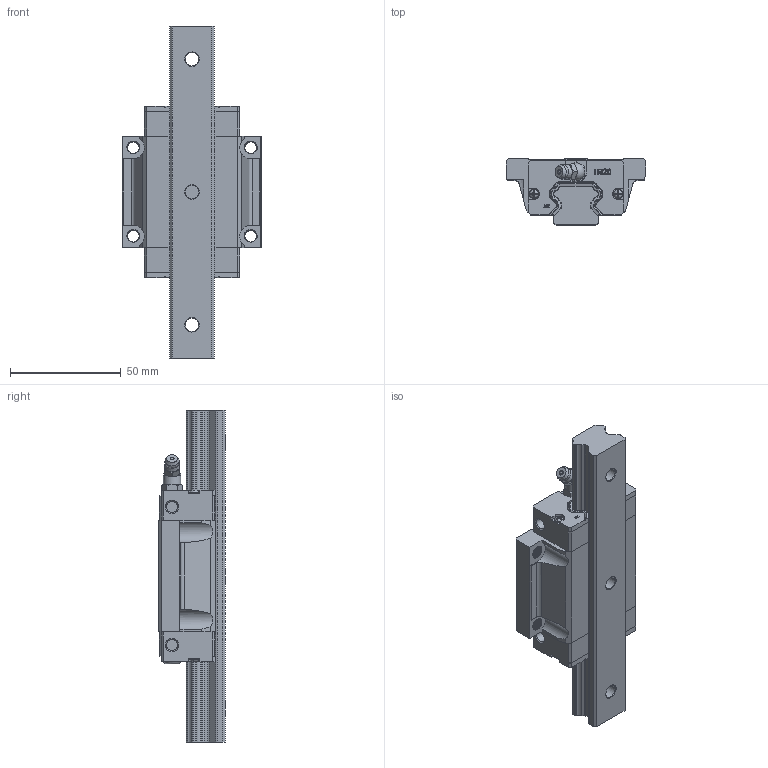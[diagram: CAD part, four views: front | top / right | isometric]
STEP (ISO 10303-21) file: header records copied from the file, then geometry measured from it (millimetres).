
FILE_DESCRIPTION(/* description */ (''),/* implementation_level */ '2;1');
FILE_NAME(/* name */ 'HBW20CC.stp',/* time_stamp */ '2024-09-29T20:52:21+08:00',/* author */ (''),/* organization */ (''),/* preprocessor_version */ 'ST-DEVELOPER v16.7',/* originating_system */ 'SIEMENS PLM Software NX 12.0',/* authorisation */ '');
FILE_SCHEMA (('AUTOMOTIVE_DESIGN { 1 0 10303 214 3 1 1 1 }'));
Products named in the file (3): HBW20CC; HBR20; HBW20CC_stp
Assembly tree (2 placements, depth 2):
  HBW20CC_stp
    HBR20
    HBW20CC
Bounding box: 63 x 30 x 150 mm (x, y, z)
Volume: 120288.5 mm3; surface area: 32203.6 mm2
Topology: 2 solids, 9 shells, 1043 faces, 2797 edges, 1812 vertices
Faces by surface type: plane 566, cylinder 233, extrusion 120, cone 72, bspline 33, torus 14, sphere 5
Full cylindrical faces by diameter (mm): 2.8 x4, 3 x1, 3.7 x1, 5 x4, 6.1 x2, 7.8 x1, 8 x2, 8.3 x1
Entity records: 67286 total; most frequent: CARTESIAN_POINT 39972, ORIENTED_EDGE 5450, DIRECTION 4646, EDGE_CURVE 2725, VERTEX_POINT 1791, VECTOR 1668, LINE 1548, AXIS2_PLACEMENT_3D 1489
